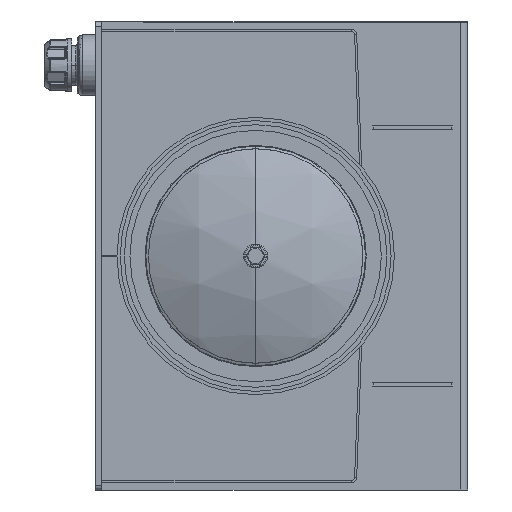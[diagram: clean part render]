
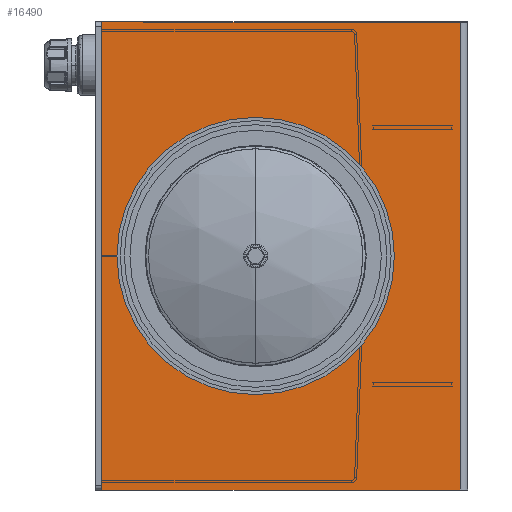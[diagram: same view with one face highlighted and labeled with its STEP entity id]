
A CAD part, left-side view. The second image highlights one B-rep face of the part: STEP entity #16490.
In plain terms, the highlighted planar face has unit normal (-1, 0, 0).
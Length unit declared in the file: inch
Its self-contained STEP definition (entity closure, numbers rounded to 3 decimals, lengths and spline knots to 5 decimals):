
#135 = EDGE_LOOP ( 'NONE', ( #10067, #12332 ) ) ;
#1629 = CARTESIAN_POINT ( 'NONE',  ( -33.47429, 8.95906, -12.22974 ) ) ;
#2753 = CARTESIAN_POINT ( 'NONE',  ( -33.47429, 8.95906, -12.22974 ) ) ;
#3127 = DIRECTION ( 'NONE',  ( 0., 0., -1. ) ) ;
#3267 = CIRCLE ( 'NONE', #9119, 6.125 ) ;
#3414 = CARTESIAN_POINT ( 'NONE',  ( -33.47429, 0.07906, 7.39526 ) ) ;
#3540 = VERTEX_POINT ( 'NONE', #15020 ) ;
#4457 = EDGE_CURVE ( 'NONE', #8097, #24116, #3267, .T. ) ;
#4644 = FACE_BOUND ( 'NONE', #135, .T. ) ;
#5313 = CARTESIAN_POINT ( 'NONE',  ( -33.47429, -12.16594, 14.77026 ) ) ;
#6050 = ORIENTED_EDGE ( 'NONE', *, *, #16574, .T. ) ;
#6161 = DIRECTION ( 'NONE',  ( 0., 0., 1. ) ) ;
#6869 = PLANE ( 'NONE',  #20544 ) ;
#7086 = DIRECTION ( 'NONE',  ( 0., -1., 0. ) ) ;
#7642 = VECTOR ( 'NONE', #7086, 39.37008 ) ;
#8097 = VERTEX_POINT ( 'NONE', #3414 ) ;
#8957 = ORIENTED_EDGE ( 'NONE', *, *, #24175, .T. ) ;
#9119 = AXIS2_PLACEMENT_3D ( 'NONE', #22497, #22465, #22446 ) ;
#9257 = VERTEX_POINT ( 'NONE', #21061 ) ;
#9598 = FACE_OUTER_BOUND ( 'NONE', #11560, .T. ) ;
#9735 = DIRECTION ( 'NONE',  ( -1., 0., 0. ) ) ;
#9828 = LINE ( 'NONE', #1629, #19190 ) ;
#10067 = ORIENTED_EDGE ( 'NONE', *, *, #4457, .F. ) ;
#10089 = LINE ( 'NONE', #22840, #20045 ) ;
#11560 = EDGE_LOOP ( 'NONE', ( #17983, #6050, #13233, #8957 ) ) ;
#12332 = ORIENTED_EDGE ( 'NONE', *, *, #17465, .F. ) ;
#12532 = VERTEX_POINT ( 'NONE', #15275 ) ;
#12707 = DIRECTION ( 'NONE',  ( 0., 1., 0. ) ) ;
#13233 = ORIENTED_EDGE ( 'NONE', *, *, #17362, .T. ) ;
#14300 = DIRECTION ( 'NONE',  ( 1., 0., 0. ) ) ;
#15020 = CARTESIAN_POINT ( 'NONE',  ( -33.47429, -11.73664, 14.77026 ) ) ;
#15275 = CARTESIAN_POINT ( 'NONE',  ( -33.47429, 8.95906, 14.77026 ) ) ;
#15578 = AXIS2_PLACEMENT_3D ( 'NONE', #20917, #9735, #22789 ) ;
#16233 = CIRCLE ( 'NONE', #15578, 6.125 ) ;
#16335 = CARTESIAN_POINT ( 'NONE',  ( -33.47429, -12.16594, -12.22974 ) ) ;
#16490 = ADVANCED_FACE ( 'NONE', ( #4644, #9598 ), #6869, .F. ) ;
#16574 = EDGE_CURVE ( 'NONE', #3540, #12532, #22163, .T. ) ;
#17362 = EDGE_CURVE ( 'NONE', #12532, #21637, #9828, .T. ) ;
#17465 = EDGE_CURVE ( 'NONE', #24116, #8097, #16233, .T. ) ;
#17983 = ORIENTED_EDGE ( 'NONE', *, *, #20139, .T. ) ;
#19190 = VECTOR ( 'NONE', #22164, 39.37008 ) ;
#19788 = CARTESIAN_POINT ( 'NONE',  ( -33.47429, 0.07906, -4.85474 ) ) ;
#20045 = VECTOR ( 'NONE', #6161, 39.37008 ) ;
#20139 = EDGE_CURVE ( 'NONE', #9257, #3540, #10089, .T. ) ;
#20544 = AXIS2_PLACEMENT_3D ( 'NONE', #23465, #14300, #3127 ) ;
#20917 = CARTESIAN_POINT ( 'NONE',  ( -33.47429, 0.07906, 1.27026 ) ) ;
#21061 = CARTESIAN_POINT ( 'NONE',  ( -33.47429, -11.73664, -12.22974 ) ) ;
#21590 = VECTOR ( 'NONE', #12707, 39.37008 ) ;
#21637 = VERTEX_POINT ( 'NONE', #2753 ) ;
#22163 = LINE ( 'NONE', #5313, #21590 ) ;
#22164 = DIRECTION ( 'NONE',  ( 0., 0., -1. ) ) ;
#22446 = DIRECTION ( 'NONE',  ( 0., 0., 1. ) ) ;
#22465 = DIRECTION ( 'NONE',  ( -1., 0., 0. ) ) ;
#22497 = CARTESIAN_POINT ( 'NONE',  ( -33.47429, 0.07906, 1.27026 ) ) ;
#22789 = DIRECTION ( 'NONE',  ( 0., 0., 1. ) ) ;
#22840 = CARTESIAN_POINT ( 'NONE',  ( -33.47429, -11.73664, -12.22974 ) ) ;
#23081 = LINE ( 'NONE', #16335, #7642 ) ;
#23465 = CARTESIAN_POINT ( 'NONE',  ( -33.47429, 8.95906, -12.22974 ) ) ;
#24116 = VERTEX_POINT ( 'NONE', #19788 ) ;
#24175 = EDGE_CURVE ( 'NONE', #21637, #9257, #23081, .T. ) ;
